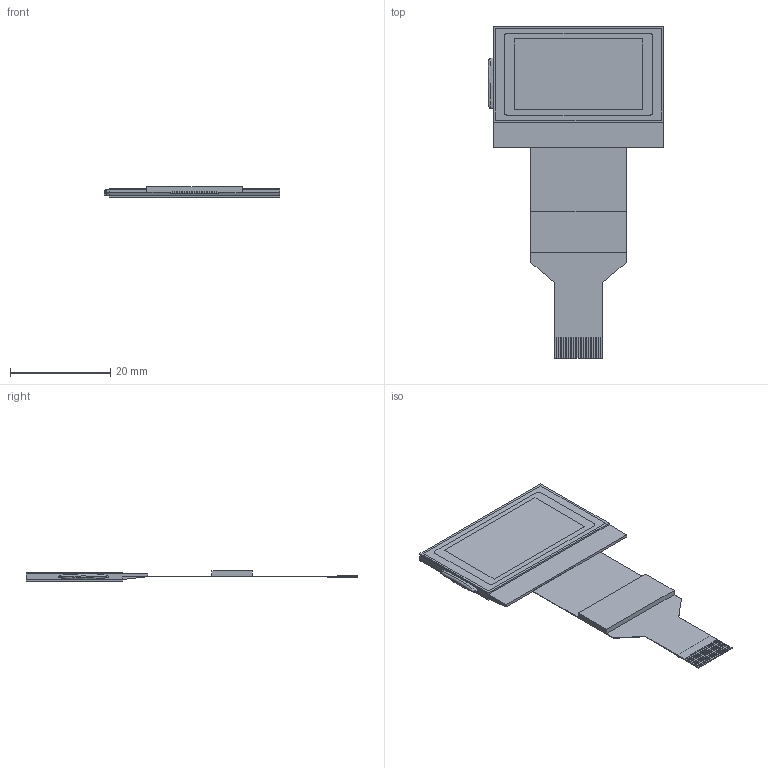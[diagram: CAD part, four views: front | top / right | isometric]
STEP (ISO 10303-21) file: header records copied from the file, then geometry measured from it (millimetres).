
FILE_DESCRIPTION (( 'STEP AP214' ), '1' );
FILE_NAME ('CFAG12864T4NFI.STEP', '2023-12-20T15:51:06', ( '' ), ( '' ), 'SwSTEP 2.0', 'SolidWorks 2021', '' );
FILE_SCHEMA (( 'AUTOMOTIVE_DESIGN' ));
Length unit declared in the file: millimetre
Products named in the file (1): CFAG12864T4NFI
Bounding box: 35 x 66.08 x 2.02 mm (x, y, z)
Volume: 1524.8 mm3; surface area: 6198.1 mm2
Topology: 6 solids, 6 shells, 128 faces, 362 edges, 250 vertices
Faces by surface type: plane 122, bspline 6
Entity records: 6970 total; most frequent: CARTESIAN_POINT 2516, ORIENTED_EDGE 720, DIRECTION 600, EDGE_CURVE 360, VECTOR 338, LINE 338, VERTEX_POINT 250, EDGE_LOOP 134
